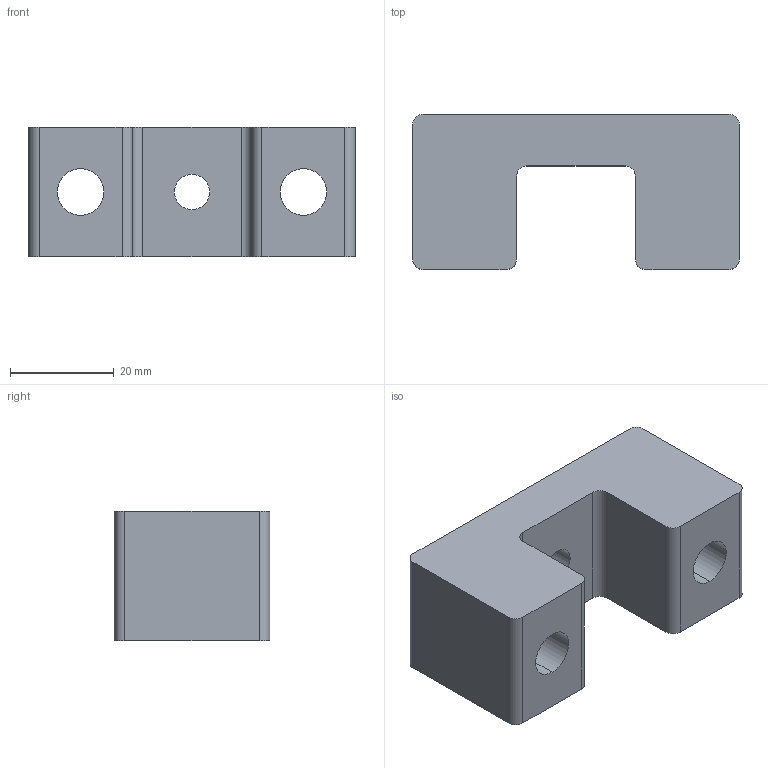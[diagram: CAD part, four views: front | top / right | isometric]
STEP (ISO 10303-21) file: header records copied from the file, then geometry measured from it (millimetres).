
FILE_DESCRIPTION (( 'STEP AP203' ), '1' );
FILE_NAME ('YWSD-2026-03-01-05-02=001 揤踡輸.STEP', '2026-07-24T07:35:45', ( 'Windows 蚚誧' ), ( '' ), 'SwSTEP 2.0', 'SolidWorks 2024', '' );
FILE_SCHEMA (( 'CONFIG_CONTROL_DESIGN' ));
Length unit declared in the file: millimetre
Products named in the file (1): YWSD-2026-03-01-05-02=001 压紧块
Bounding box: 63 x 30 x 25 mm (x, y, z)
Volume: 26960.1 mm3; surface area: 10668.4 mm2
Topology: 1 solids, 1 shells, 30 faces, 78 edges, 52 vertices
Faces by surface type: cylinder 18, plane 12
Entity records: 1027 total; most frequent: DIRECTION 176, CARTESIAN_POINT 161, ORIENTED_EDGE 156, EDGE_CURVE 78, AXIS2_PLACEMENT_3D 67, VERTEX_POINT 52, LINE 42, VECTOR 42
